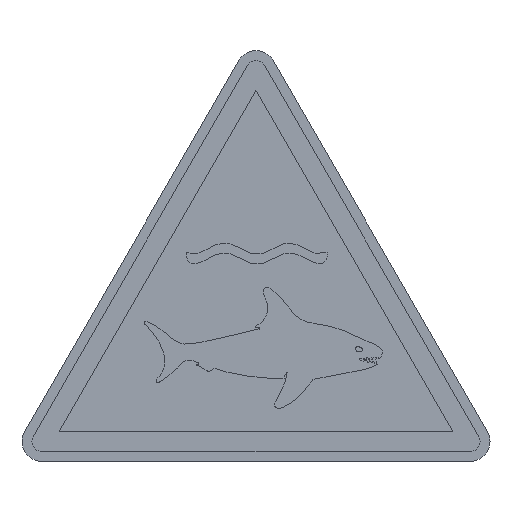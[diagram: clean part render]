
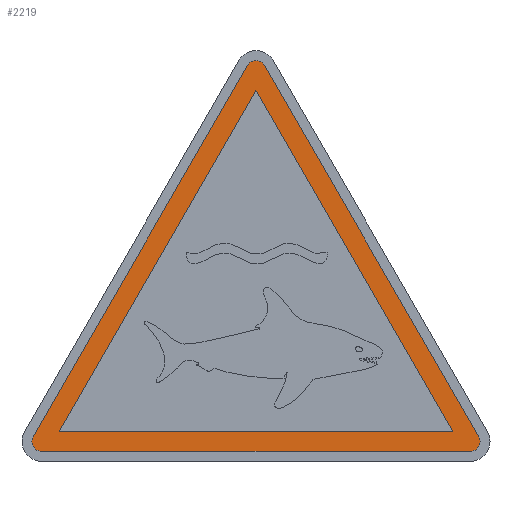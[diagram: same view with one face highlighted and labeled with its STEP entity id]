
A CAD part, top view. The second image highlights one B-rep face of the part: STEP entity #2219.
In plain terms, the highlighted planar face has unit normal (0, 0, 1).
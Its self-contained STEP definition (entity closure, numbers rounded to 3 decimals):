
#213 = CARTESIAN_POINT ( 'NONE',  ( -22.536, 2., 0.22 ) ) ;
#242 = CARTESIAN_POINT ( 'NONE',  ( 21.536, 1., 0.22 ) ) ;
#383 = VERTEX_POINT ( 'NONE', #213 ) ;
#427 = AXIS2_PLACEMENT_3D ( 'NONE', #5922, #5240, #477 ) ;
#431 = VERTEX_POINT ( 'NONE', #6742 ) ;
#477 = DIRECTION ( 'NONE',  ( 1., 0., 0. ) ) ;
#488 = ORIENTED_EDGE ( 'NONE', *, *, #7702, .T. ) ;
#508 = LINE ( 'NONE', #10171, #6360 ) ;
#585 = CARTESIAN_POINT ( 'NONE',  ( -21.536, 2., 0.22 ) ) ;
#618 = CARTESIAN_POINT ( 'NONE',  ( 22.402, 2.5, 0.22 ) ) ;
#1217 = VERTEX_POINT ( 'NONE', #5408 ) ;
#1281 = EDGE_CURVE ( 'NONE', #6556, #1628, #4160, .T. ) ;
#1628 = VERTEX_POINT ( 'NONE', #4972 ) ;
#1720 = DIRECTION ( 'NONE',  ( 1., 0., 0. ) ) ;
#1723 = EDGE_CURVE ( 'NONE', #7352, #1217, #508, .T. ) ;
#1740 = CIRCLE ( 'NONE', #4085, 1. ) ;
#1808 = ORIENTED_EDGE ( 'NONE', *, *, #1281, .F. ) ;
#1898 = CARTESIAN_POINT ( 'NONE',  ( 19.804, 3., 0.22 ) ) ;
#1996 = DIRECTION ( 'NONE',  ( 0., 0., 1. ) ) ;
#2100 = AXIS2_PLACEMENT_3D ( 'NONE', #9826, #1996, #2725 ) ;
#2219 = ADVANCED_FACE ( 'NONE', ( #4036, #8784 ), #6427, .T. ) ;
#2319 = ORIENTED_EDGE ( 'NONE', *, *, #9344, .T. ) ;
#2552 = EDGE_CURVE ( 'NONE', #1217, #383, #9137, .T. ) ;
#2725 = DIRECTION ( 'NONE',  ( 1., 0., 0. ) ) ;
#2759 = DIRECTION ( 'NONE',  ( 1., 0., 0. ) ) ;
#2943 = ORIENTED_EDGE ( 'NONE', *, *, #2552, .T. ) ;
#3059 = CARTESIAN_POINT ( 'NONE',  ( -21.536, 1., 0.22 ) ) ;
#3196 = DIRECTION ( 'NONE',  ( -0.5, -0.866, 0. ) ) ;
#3275 = CIRCLE ( 'NONE', #427, 1. ) ;
#3458 = ORIENTED_EDGE ( 'NONE', *, *, #4983, .T. ) ;
#3536 = ORIENTED_EDGE ( 'NONE', *, *, #9643, .F. ) ;
#3655 = DIRECTION ( 'NONE',  ( 0., 0., 1. ) ) ;
#3697 = CIRCLE ( 'NONE', #4186, 1. ) ;
#3798 = VERTEX_POINT ( 'NONE', #9453 ) ;
#3871 = CARTESIAN_POINT ( 'NONE',  ( 22.402, 2.5, 0.22 ) ) ;
#3884 = CARTESIAN_POINT ( 'NONE',  ( -0.866, 39.801, 0.22 ) ) ;
#4036 = FACE_OUTER_BOUND ( 'NONE', #4373, .T. ) ;
#4041 = VECTOR ( 'NONE', #4619, 1000. ) ;
#4085 = AXIS2_PLACEMENT_3D ( 'NONE', #585, #3655, #5311 ) ;
#4160 = LINE ( 'NONE', #1898, #7862 ) ;
#4186 = AXIS2_PLACEMENT_3D ( 'NONE', #7715, #5221, #8559 ) ;
#4246 = EDGE_CURVE ( 'NONE', #5965, #7027, #8783, .T. ) ;
#4373 = EDGE_LOOP ( 'NONE', ( #2319, #9070, #2943, #6304, #5886, #3458, #488 ) ) ;
#4512 = EDGE_CURVE ( 'NONE', #431, #6556, #10284, .T. ) ;
#4619 = DIRECTION ( 'NONE',  ( 1., 0., 0. ) ) ;
#4972 = CARTESIAN_POINT ( 'NONE',  ( 0., 37.301, 0.22 ) ) ;
#4983 = EDGE_CURVE ( 'NONE', #7027, #6531, #3697, .T. ) ;
#5221 = DIRECTION ( 'NONE',  ( 0., 0., 1. ) ) ;
#5240 = DIRECTION ( 'NONE',  ( 0., 0., 1. ) ) ;
#5311 = DIRECTION ( 'NONE',  ( 1., 0., 0. ) ) ;
#5408 = CARTESIAN_POINT ( 'NONE',  ( -22.402, 2.5, 0.22 ) ) ;
#5491 = DIRECTION ( 'NONE',  ( -0.5, 0.866, 0. ) ) ;
#5705 = CARTESIAN_POINT ( 'NONE',  ( -19.804, 3., 0.22 ) ) ;
#5886 = ORIENTED_EDGE ( 'NONE', *, *, #4246, .T. ) ;
#5922 = CARTESIAN_POINT ( 'NONE',  ( 0., 39.301, 0.22 ) ) ;
#5965 = VERTEX_POINT ( 'NONE', #3059 ) ;
#6163 = ORIENTED_EDGE ( 'NONE', *, *, #4512, .F. ) ;
#6304 = ORIENTED_EDGE ( 'NONE', *, *, #10214, .T. ) ;
#6360 = VECTOR ( 'NONE', #9246, 1000. ) ;
#6427 = PLANE ( 'NONE',  #2100 ) ;
#6531 = VERTEX_POINT ( 'NONE', #618 ) ;
#6556 = VERTEX_POINT ( 'NONE', #7724 ) ;
#6731 = CARTESIAN_POINT ( 'NONE',  ( -21.536, 2., 0.22 ) ) ;
#6742 = CARTESIAN_POINT ( 'NONE',  ( -19.804, 3., 0.22 ) ) ;
#7005 = CARTESIAN_POINT ( 'NONE',  ( -21.536, 1., 0.22 ) ) ;
#7027 = VERTEX_POINT ( 'NONE', #242 ) ;
#7267 = DIRECTION ( 'NONE',  ( -0.5, 0.866, 0. ) ) ;
#7352 = VERTEX_POINT ( 'NONE', #3884 ) ;
#7451 = VECTOR ( 'NONE', #5491, 1000. ) ;
#7702 = EDGE_CURVE ( 'NONE', #6531, #3798, #8518, .T. ) ;
#7715 = CARTESIAN_POINT ( 'NONE',  ( 21.536, 2., 0.22 ) ) ;
#7724 = CARTESIAN_POINT ( 'NONE',  ( 19.804, 3., 0.22 ) ) ;
#7862 = VECTOR ( 'NONE', #7267, 1000. ) ;
#8309 = AXIS2_PLACEMENT_3D ( 'NONE', #6731, #9911, #2759 ) ;
#8518 = LINE ( 'NONE', #3871, #7451 ) ;
#8559 = DIRECTION ( 'NONE',  ( 1., 0., 0. ) ) ;
#8609 = VECTOR ( 'NONE', #3196, 1000. ) ;
#8783 = LINE ( 'NONE', #7005, #4041 ) ;
#8784 = FACE_BOUND ( 'NONE', #9893, .T. ) ;
#8935 = CARTESIAN_POINT ( 'NONE',  ( 0., 37.301, 0.22 ) ) ;
#9070 = ORIENTED_EDGE ( 'NONE', *, *, #1723, .T. ) ;
#9137 = CIRCLE ( 'NONE', #8309, 1. ) ;
#9246 = DIRECTION ( 'NONE',  ( -0.5, -0.866, 0. ) ) ;
#9344 = EDGE_CURVE ( 'NONE', #3798, #7352, #3275, .T. ) ;
#9453 = CARTESIAN_POINT ( 'NONE',  ( 0.866, 39.801, 0.22 ) ) ;
#9568 = LINE ( 'NONE', #8935, #8609 ) ;
#9643 = EDGE_CURVE ( 'NONE', #1628, #431, #9568, .T. ) ;
#9826 = CARTESIAN_POINT ( 'NONE',  ( 0., 39.301, 0.22 ) ) ;
#9893 = EDGE_LOOP ( 'NONE', ( #6163, #3536, #1808 ) ) ;
#9911 = DIRECTION ( 'NONE',  ( 0., 0., 1. ) ) ;
#10171 = CARTESIAN_POINT ( 'NONE',  ( -0.866, 39.801, 0.22 ) ) ;
#10205 = VECTOR ( 'NONE', #1720, 1000. ) ;
#10214 = EDGE_CURVE ( 'NONE', #383, #5965, #1740, .T. ) ;
#10284 = LINE ( 'NONE', #5705, #10205 ) ;
